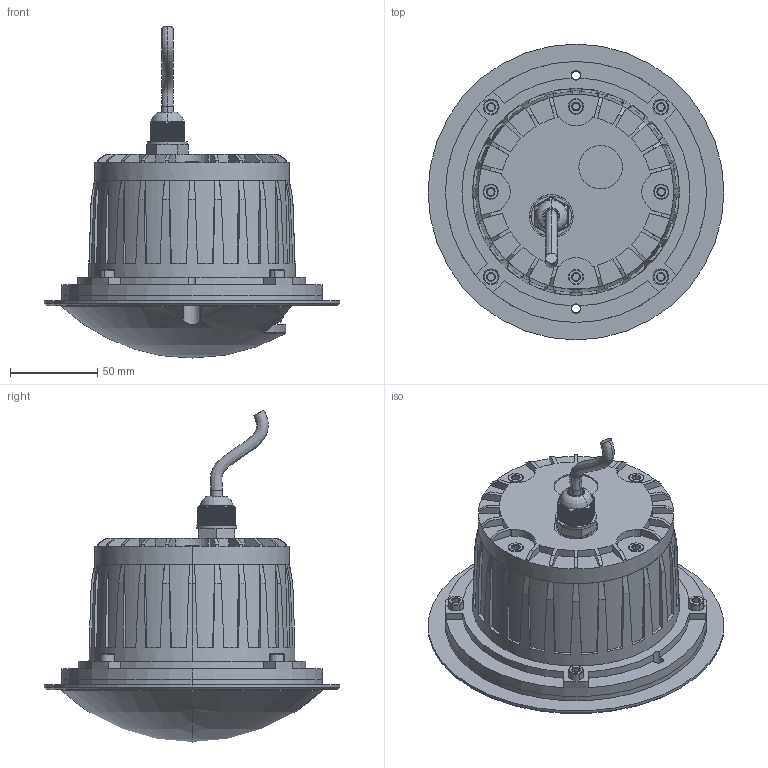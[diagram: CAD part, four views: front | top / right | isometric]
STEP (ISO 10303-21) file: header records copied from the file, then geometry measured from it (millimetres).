
FILE_DESCRIPTION((''),'2;1');
FILE_NAME('1E_2E_4E_2BF_ASM','2024-09-18T',('C027'),(''),'CREO PARAMETRIC BY PTC INC, 2014500','CREO PARAMETRIC BY PTC INC, 2014500','');
FILE_SCHEMA(('CONFIG_CONTROL_DESIGN'));
Products named in the file (28): 2BFDTXGH_14__2_7_1; 2BFHGXGH_24__2_7_1; PRT0001__2_7_1; 2AEFS2_3_7_1; PG9_2_7_1; X_1_7_1; KP-2AE_PC_; M5-7; M5-14; BTCN; DUAN_ZI; DUAN_ZI_PIAN; M3-6; M3-0; 2BF_ASM_7_ASM_1_ASM; 2BF_ASM_ASM_1_ASM; 1E2BF-A; 1E2BF-B; 1E2BF-C; 01_ASM; SRB-2; LJB-8K; B109TTTTJ; 8KYB; M3X6LZ; YAPIAN; 1KCG-120_ASM; 1E_2E_4E_2BF_ASM
Assembly tree (45 placements, depth 4):
  1E_2E_4E_2BF_ASM
    2BF_ASM_ASM_1_ASM
      2BF_ASM_7_ASM_1_ASM
        2BFDTXGH_14__2_7_1
        2BFHGXGH_24__2_7_1
        PRT0001__2_7_1
        2AEFS2_3_7_1
        PG9_2_7_1
        X_1_7_1
        KP-2AE_PC_
        M5-7  x4
        M5-14  x4
        BTCN
        DUAN_ZI
        DUAN_ZI_PIAN
        M3-6  x5
        M3-0
    01_ASM
      1E2BF-A
      1E2BF-B
      1E2BF-C
    1KCG-120_ASM
      SRB-2
      LJB-8K
      B109TTTTJ  x6
      8KYB
      M3X6LZ  x4
      YAPIAN
Bounding box: 170 x 170 x 190.76 mm (x, y, z)
Volume: 623354 mm3; surface area: 330571.2 mm2
Topology: 41 solids, 45 shells, 2784 faces, 7412 edges, 4828 vertices
Faces by surface type: plane 1172, cylinder 1022, cone 344, bspline 100, torus 83, revolution 22, sphere 22, extrusion 19
Entity records: 83688 total; most frequent: CARTESIAN_POINT 25460, ORIENTED_EDGE 12230, DIRECTION 11984, EDGE_CURVE 6115, AXIS2_PLACEMENT_3D 4557, VERTEX_POINT 3994, VECTOR 2856, LINE 2837
